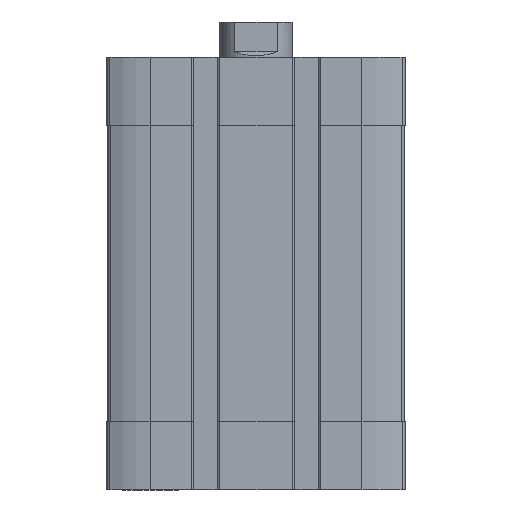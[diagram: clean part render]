
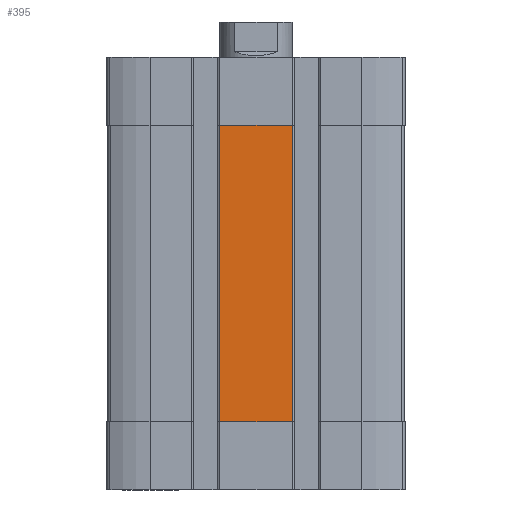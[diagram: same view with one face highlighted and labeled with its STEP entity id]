
A CAD part, front view. The second image highlights one B-rep face of the part: STEP entity #395.
In plain terms, the highlighted planar face has unit normal (0, -1, 0).
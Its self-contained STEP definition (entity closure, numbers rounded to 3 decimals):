
#395 = ADVANCED_FACE ( 'NONE', ( #5186 ), #10287, .T. ) ;
#904 = VECTOR ( 'NONE', #9735, 1000. ) ;
#1039 = DIRECTION ( 'NONE',  ( -1., 0., 0. ) ) ;
#2781 = CARTESIAN_POINT ( 'NONE',  ( 8., -32.5, -15. ) ) ;
#2848 = VECTOR ( 'NONE', #6394, 1000. ) ;
#2855 = CARTESIAN_POINT ( 'NONE',  ( 8., -32.5, -80. ) ) ;
#3554 = VERTEX_POINT ( 'NONE', #2781 ) ;
#4001 = LINE ( 'NONE', #14387, #904 ) ;
#4097 = AXIS2_PLACEMENT_3D ( 'NONE', #10390, #5361, #10564 ) ;
#5186 = FACE_OUTER_BOUND ( 'NONE', #14223, .T. ) ;
#5361 = DIRECTION ( 'NONE',  ( 0., -1., 0. ) ) ;
#5846 = EDGE_CURVE ( 'NONE', #9228, #3554, #7838, .T. ) ;
#6300 = ORIENTED_EDGE ( 'NONE', *, *, #5846, .T. ) ;
#6394 = DIRECTION ( 'NONE',  ( 0., 0., -1. ) ) ;
#6396 = ORIENTED_EDGE ( 'NONE', *, *, #8470, .T. ) ;
#6496 = CARTESIAN_POINT ( 'NONE',  ( -8., -32.5, -80. ) ) ;
#7637 = EDGE_CURVE ( 'NONE', #3554, #14731, #15162, .T. ) ;
#7838 = LINE ( 'NONE', #8998, #10621 ) ;
#8470 = EDGE_CURVE ( 'NONE', #14731, #13140, #12632, .T. ) ;
#8998 = CARTESIAN_POINT ( 'NONE',  ( 8., -32.5, -80. ) ) ;
#9150 = DIRECTION ( 'NONE',  ( 0., 0., 1. ) ) ;
#9228 = VERTEX_POINT ( 'NONE', #2855 ) ;
#9735 = DIRECTION ( 'NONE',  ( 1., 0., 0. ) ) ;
#10287 = PLANE ( 'NONE',  #4097 ) ;
#10390 = CARTESIAN_POINT ( 'NONE',  ( -8., -32.5, -80. ) ) ;
#10500 = ORIENTED_EDGE ( 'NONE', *, *, #13571, .T. ) ;
#10564 = DIRECTION ( 'NONE',  ( 0., 0., -1. ) ) ;
#10621 = VECTOR ( 'NONE', #9150, 1000. ) ;
#10933 = CARTESIAN_POINT ( 'NONE',  ( -8., -32.5, -15. ) ) ;
#12054 = VECTOR ( 'NONE', #1039, 1000. ) ;
#12632 = LINE ( 'NONE', #13483, #2848 ) ;
#12801 = CARTESIAN_POINT ( 'NONE',  ( 0., -32.5, -15. ) ) ;
#13140 = VERTEX_POINT ( 'NONE', #6496 ) ;
#13483 = CARTESIAN_POINT ( 'NONE',  ( -8., -32.5, -80. ) ) ;
#13566 = ORIENTED_EDGE ( 'NONE', *, *, #7637, .T. ) ;
#13571 = EDGE_CURVE ( 'NONE', #13140, #9228, #4001, .T. ) ;
#14223 = EDGE_LOOP ( 'NONE', ( #10500, #6300, #13566, #6396 ) ) ;
#14387 = CARTESIAN_POINT ( 'NONE',  ( -8., -32.5, -80. ) ) ;
#14731 = VERTEX_POINT ( 'NONE', #10933 ) ;
#15162 = LINE ( 'NONE', #12801, #12054 ) ;
